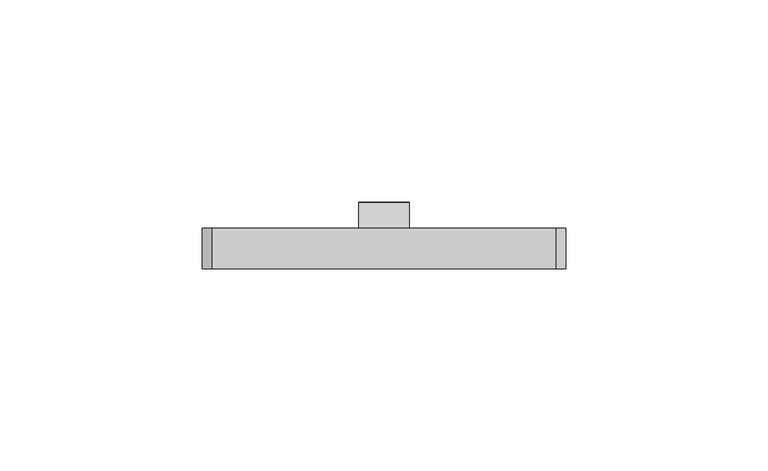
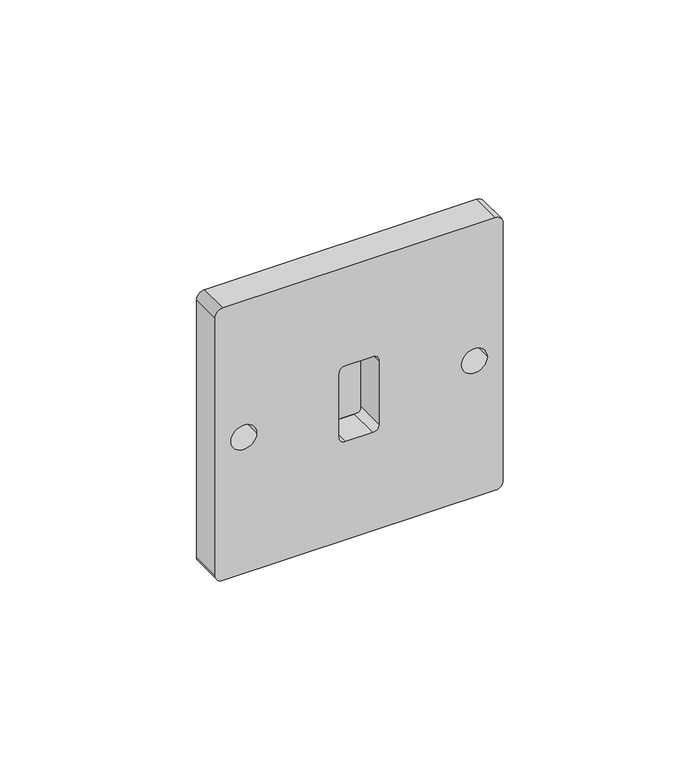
"""IFC4 building model written with IfcOpenShell, lengths in millimetres: proxy geometry, BIMHealth-Light_Switch-LOD2A-v1 : BIMHealth-Light_Switch-LOD2A-v1."""

from ifc_helpers import new_model, si_unit, point, frame, frame_2d, origin, place, context, project, spatial, polyline, circle_curve, trimmed, segment, composite_curve, outline, extrude, source, transform, mapped, element, save


def generic_models_4b609abf(model_context):
    return source(origin(), model_context, "Body", "SweptSolid", [
        extrude(outline(composite_curve([segment(polyline([(10.0, 1257.5286096), (16.3259043, 1254.578792)]), True, "CONTINUOUS"), segment(trimmed(circle_curve(frame_2d((14.4146112, 1253.8636907)), 2.0406889), [point((16.3259043, 1254.578792))], [point((16.3259043, 1253.1485894))], False, "CARTESIAN"), True, "CONTINUOUS"), segment(trimmed(circle_curve(frame_2d((46.7694965, 1232.5286096)), 36.7694965), [point((16.3259043, 1253.1485894))], [point((10.0, 1232.5286096))], True, "CARTESIAN"), True, "CONTINUOUS"), segment(polyline([(10.0, 1232.5286096), (10.0, 1257.5286096)]), True, "CONTINUOUS")], self_intersect=False)), frame((-6.25, 0.0, 0.0), z_axis=(1.0, 0.0, 0.0), x_axis=(0.0, 1.0, 0.0)), (0.0, 0.0, 1.0), 12.5),
        extrude(outline(composite_curve([segment(polyline([(1290.0, 42.5), (1290.0, -42.5)]), True, "CONTINUOUS"), segment(trimmed(circle_curve(frame_2d((1287.5, -42.5)), 2.5), [point((1290.0, -42.5))], [point((1287.5, -45.0))], False, "CARTESIAN"), True, "CONTINUOUS"), segment(polyline([(1287.5, -45.0), (1202.5, -45.0)]), True, "CONTINUOUS"), segment(trimmed(circle_curve(frame_2d((1202.5, -42.5)), 2.5), [point((1202.5, -45.0))], [point((1200.0, -42.5))], False, "CARTESIAN"), True, "CONTINUOUS"), segment(polyline([(1200.0, -42.5), (1200.0, 42.5)]), True, "CONTINUOUS"), segment(trimmed(circle_curve(frame_2d((1202.5, 42.5)), 2.5), [point((1200.0, 42.5))], [point((1202.5, 45.0))], False, "CARTESIAN"), True, "CONTINUOUS"), segment(polyline([(1202.5, 45.0), (1287.5, 45.0)]), True, "CONTINUOUS"), segment(trimmed(circle_curve(frame_2d((1287.5, 42.5)), 2.5), [point((1287.5, 45.0))], [point((1290.0, 42.5))], False, "CARTESIAN"), True, "CONTINUOUS")], self_intersect=False), holes=[composite_curve([segment(trimmed(circle_curve(frame_2d((1245.0286096, -36.0328762)), 4.0), [point((1245.0286096, -40.0328762))], [point((1245.0286096, -32.0328762))], True, "CARTESIAN"), True, "CONTINUOUS"), segment(trimmed(circle_curve(frame_2d((1245.0286096, -36.0328762)), 4.0), [point((1245.0286096, -32.0328762))], [point((1245.0286096, -40.0328762))], True, "CARTESIAN"), True, "CONTINUOUS")], self_intersect=False), composite_curve([segment(trimmed(circle_curve(frame_2d((1245.0286096, 36.0328762)), 4.0), [point((1245.0286096, 40.0328762))], [point((1245.0286096, 32.0328762))], True, "CARTESIAN"), True, "CONTINUOUS"), segment(trimmed(circle_curve(frame_2d((1245.0286096, 36.0328762)), 4.0), [point((1245.0286096, 32.0328762))], [point((1245.0286096, 40.0328762))], True, "CARTESIAN"), True, "CONTINUOUS")], self_intersect=False), composite_curve([segment(trimmed(circle_curve(frame_2d((1255.5286096, 4.25)), 2.0), [point((1257.5286096, 4.25))], [point((1255.5286096, 6.25))], True, "CARTESIAN"), True, "CONTINUOUS"), segment(polyline([(1255.5286096, 6.25), (1234.5286096, 6.25)]), True, "CONTINUOUS"), segment(trimmed(circle_curve(frame_2d((1234.5286096, 4.25)), 2.0), [point((1234.5286096, 6.25))], [point((1232.5286096, 4.25))], True, "CARTESIAN"), True, "CONTINUOUS"), segment(polyline([(1232.5286096, 4.25), (1232.5286096, -4.25)]), True, "CONTINUOUS"), segment(trimmed(circle_curve(frame_2d((1234.5286096, -4.25)), 2.0), [point((1232.5286096, -4.25))], [point((1234.5286096, -6.25))], True, "CARTESIAN"), True, "CONTINUOUS"), segment(polyline([(1234.5286096, -6.25), (1255.5286096, -6.25)]), True, "CONTINUOUS"), segment(trimmed(circle_curve(frame_2d((1255.5286096, -4.25)), 2.0), [point((1255.5286096, -6.25))], [point((1257.5286096, -4.25))], True, "CARTESIAN"), True, "CONTINUOUS"), segment(polyline([(1257.5286096, -4.25), (1257.5286096, 4.25)]), True, "CONTINUOUS")], self_intersect=False)]), frame((0.0, 0.0, 0.0), z_axis=(0.0, 1.0, 0.0), x_axis=(0.0, 0.0, 1.0)), (0.0, 0.0, 1.0), 10.0),
    ])


if __name__ == "__main__":
    model = new_model("IFC4")
    model_context = context("Model", 3, world=origin())
    ifc_project = project(units=[si_unit("LENGTHUNIT", "METRE", prefix="MILLI")], contexts=[model_context])
    site = spatial("IfcSite", under=ifc_project)
    building = spatial("IfcBuilding", under=site)
    placement = place(None, origin())
    generic_models_shape = generic_models_4b609abf(model_context)
    element("IfcBuildingElementProxy", 1, Name="BIMHealth-Light_Switch-LOD2A-v1 : BIMHealth-Light_Switch-LOD2A-v1", ObjectType="BIMHealth-Light_Switch-LOD2A-v1 : BIMHealth-Light_Switch-LOD2A-v1", at=placement, inside=building, context=model_context, shape_type="MappedRepresentation", body=[
        mapped(generic_models_shape, transform((0.0, 0.0, 0.0), x_axis=(1.0, 0.0, 0.0), y_axis=(0.0, 1.0, 0.0), z_axis=(0.0, 0.0, 1.0))),
    ])
    save(model, "model.ifc")
